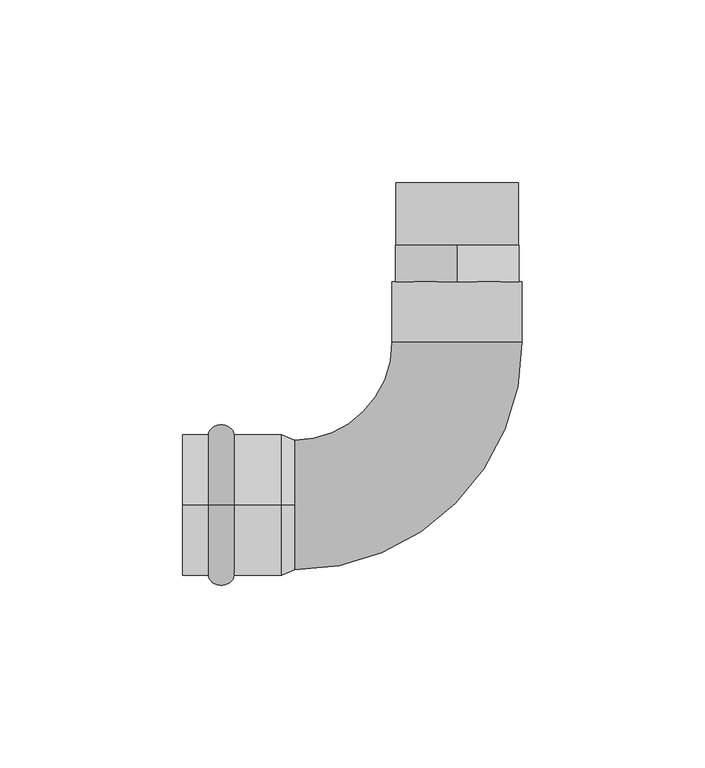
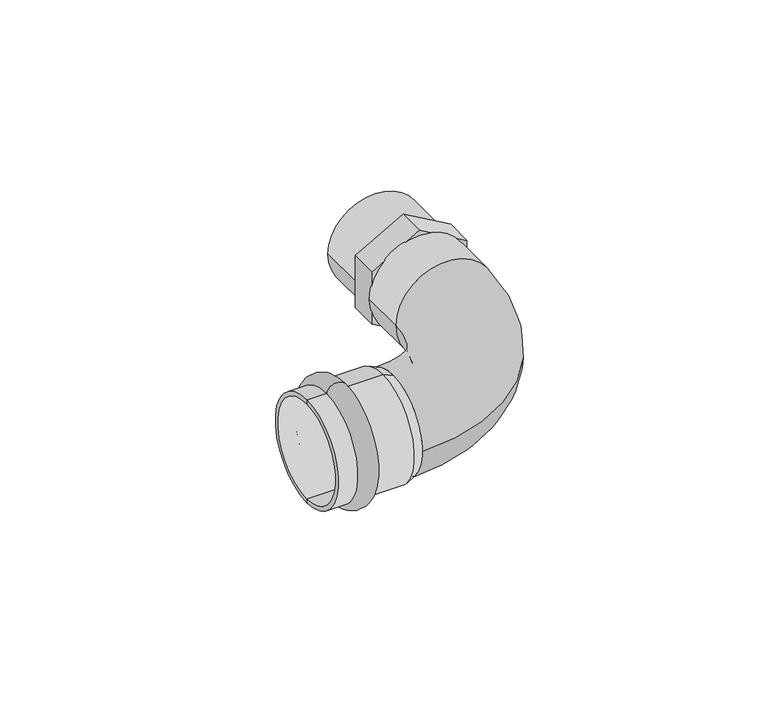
"""IFC4 building model written with IfcOpenShell, lengths in millimetres: pipe fitting geometry."""

from ifc_helpers import new_model, si_unit, point, frame, frame_2d, origin, place, context, project, spatial, polyline, circle_curve, ellipse_curve, trimmed, segment, composite_curve, outline, extrude, source, transform, mapped, element, save
from ifc_brep_helpers import plane_surface, cylinder_surface, revolved_surface, advanced_brep


def pipe_fitting_bc462015(model_context):
    return source(origin(), model_context, "Body", "SolidModel", [
        advanced_brep(
        [(-20.0, 0.0, 19.25), (-20.0, 0.0, -19.25), (-13.0, 0.0, -19.25), (-13.0, 0.0, 19.25)],
        [
            (0, 1, circle_curve(frame((-20.0, 0.0, 0.0), z_axis=(-1.0, 0.0, 0.0), x_axis=(0.0, 0.0, -1.0)), 19.25)),
            (1, 2),
            (2, 3, circle_curve(frame((-13.0, 0.0, 0.0), z_axis=(1.0, 0.0, 0.0), x_axis=(0.0, 0.0, -1.0)), 19.25)),
            (3, 0),
            (1, 0, circle_curve(frame((-20.0, 0.0, 0.0), z_axis=(-1.0, 0.0, 0.0), x_axis=(0.0, 0.0, -1.0)), 19.25)),
            (3, 2, circle_curve(frame((-13.0, 0.0, 0.0), z_axis=(1.0, 0.0, 0.0), x_axis=(0.0, 0.0, -1.0)), 19.25)),
            (2, 1, ellipse_curve(frame((-16.5, 0.0, -19.25), z_axis=(0.0, 1.0, 0.0), x_axis=(-1.0, 0.0, 0.0)), 3.5, 2.75)),
            (0, 3, ellipse_curve(frame((-16.5, 0.0, 19.25), z_axis=(0.0, 1.0, 0.0), x_axis=(-1.0, 0.0, 0.0)), 3.5, 2.75)),
        ],
        [
            revolved_surface(polyline([(-13.0, 0.0, -19.25), (-20.0, 0.0, -19.25)]), (3.0, 0.0, 0.0), (1.0, 0.0, 0.0)),
            revolved_surface(trimmed(ellipse_curve(frame((-16.5, 0.0, -19.25), z_axis=(0.0, -1.0, 0.0), x_axis=(-1.0, 0.0, 0.0)), 3.5, 2.75), [point((-20.0, 0.0, -19.25))], [point((-13.0, 0.0, -19.25))], True, "CARTESIAN"), (3.0, 0.0, 0.0), (1.0, 0.0, 0.0)),
        ],
        [
            (0, [[1, 2, 3, 4]]),
            (0, [[5, -4, 6, -2]]),
            (1, [[-3, 7, -1, 8]]),
            (1, [[-6, -8, -5, -7]]),
        ],
    ),
        advanced_brep(
        [(3.5337785, 0.0, 17.75), (3.5337785, 0.0, -17.75), (0.0, 0.0, -19.25), (0.0, 0.0, 19.25), (-27.0, 0.0, 17.75), (-27.0, 0.0, -17.75), (-27.0, 0.0, 19.25), (-27.0, 0.0, -19.25)],
        [
            (0, 1, circle_curve(frame((3.5337785, 0.0, 0.0), z_axis=(-1.0, 0.0, 0.0), x_axis=(0.0, 0.0, -1.0)), 17.75)),
            (1, 2),
            (2, 3, circle_curve(frame((0.0, 0.0, 0.0), z_axis=(1.0, 0.0, 0.0), x_axis=(0.0, 0.0, -1.0)), 19.25)),
            (3, 0),
            (1, 0, circle_curve(frame((3.5337785, 0.0, 0.0), z_axis=(-1.0, 0.0, 0.0), x_axis=(0.0, 0.0, -1.0)), 17.75)),
            (3, 2, circle_curve(frame((0.0, 0.0, 0.0), z_axis=(1.0, 0.0, 0.0), x_axis=(0.0, 0.0, -1.0)), 19.25)),
            (4, 5, circle_curve(frame((-27.0, 0.0, 0.0), z_axis=(-1.0, 0.0, 0.0), x_axis=(0.0, 0.0, -1.0)), 17.75)),
            (5, 1),
            (0, 4),
            (5, 4, circle_curve(frame((-27.0, 0.0, 0.0), z_axis=(-1.0, 0.0, 0.0), x_axis=(0.0, 0.0, -1.0)), 17.75)),
            (6, 7, circle_curve(frame((-27.0, 0.0, 0.0), z_axis=(-1.0, 0.0, 0.0), x_axis=(0.0, 0.0, -1.0)), 19.25)),
            (7, 5),
            (4, 6),
            (7, 6, circle_curve(frame((-27.0, 0.0, 0.0), z_axis=(-1.0, 0.0, 0.0), x_axis=(0.0, 0.0, -1.0)), 19.25)),
            (2, 7),
            (6, 3),
        ],
        [
            revolved_surface(polyline([(0.0, 0.0, -19.25), (3.5337785, 0.0, -17.75)]), (3.0, 0.0, 0.0), (1.0, 0.0, 0.0)),
            revolved_surface(polyline([(3.5337785, 0.0, -17.75), (-27.0, 0.0, -17.75)]), (3.0, 0.0, 0.0), (1.0, 0.0, 0.0)),
            plane_surface(frame((-27.0, 0.0, 0.0), z_axis=(-1.0, 0.0, 0.0), x_axis=(0.0, 0.0, -1.0))),
            cylinder_surface(frame((3.0, 0.0, 0.0), z_axis=(1.0, 0.0, 0.0), x_axis=(0.0, 0.0, -1.0)), 19.25),
        ],
        [
            (0, [[1, 2, 3, 4]]),
            (0, [[5, -4, 6, -2]]),
            (1, [[7, 8, -1, 9]]),
            (1, [[10, -9, -5, -8]]),
            (2, [[11, 12, -7, 13]]),
            (2, [[14, -13, -10, -12]]),
            (3, [[-3, 15, -11, 16]]),
            (3, [[-6, -16, -14, -15]]),
        ],
    ),
        extrude(outline(polyline([(9.728352, 64.85), (19.4567041, 48.0), (9.728352, 31.15), (-9.728352, 31.15), (-19.4567041, 48.0), (-9.728352, 64.85), (9.728352, 64.85)]), holes=[polyline([(-7.3612159, 35.25), (7.3612159, 35.25), (14.7224319, 48.0), (7.3612159, 60.75), (-7.3612159, 60.75), (-14.7224319, 48.0), (-7.3612159, 35.25)])]), frame((0.0, 61.0, 0.0), z_axis=(0.0, 1.0, 0.0), x_axis=(0.0, 0.0, 1.0)), (0.0, 0.0, 1.0), 10.0),
        extrude(outline(composite_curve([segment(trimmed(circle_curve(frame_2d((0.0, 48.0)), 16.75), [point((0.0, 31.25))], [point((0.0, 64.75))], False, "CARTESIAN"), True, "CONTINUOUS"), segment(trimmed(circle_curve(frame_2d((0.0, 48.0)), 16.75), [point((0.0, 64.75))], [point((0.0, 31.25))], False, "CARTESIAN"), True, "CONTINUOUS")], self_intersect=False)), frame((0.0, 71.0, 0.0), z_axis=(0.0, 1.0, 0.0), x_axis=(0.0, 0.0, 1.0)), (0.0, 0.0, 1.0), 17.0),
        advanced_brep(
        [(0.0, -17.75, 0.0), (0.0, 17.75, 0.0), (3.5337785, -17.75, 0.0), (3.5337785, 17.75, 0.0), (30.25, 44.4662215, 0.0), (65.75, 44.4662215, 0.0), (65.75, 61.0, 0.0), (30.25, 61.0, 0.0)],
        [
            (0, 1, circle_curve(frame((0.0, 0.0, 0.0), z_axis=(-1.0, 0.0, 0.0), x_axis=(0.0, 1.0, 0.0)), 17.75)),
            (1, 0, circle_curve(frame((0.0, 0.0, 0.0), z_axis=(-1.0, 0.0, 0.0), x_axis=(0.0, 1.0, 0.0)), 17.75)),
            (0, 2),
            (2, 3, circle_curve(frame((3.5337785, 0.0, 0.0), z_axis=(-1.0, 0.0, 0.0), x_axis=(0.0, 1.0, 0.0)), 17.75)),
            (3, 1),
            (3, 2, circle_curve(frame((3.5337785, 0.0, 0.0), z_axis=(-1.0, 0.0, 0.0), x_axis=(0.0, 1.0, 0.0)), 17.75)),
            (4, 3, circle_curve(frame((3.5337785, 44.4662215, 0.0), z_axis=(0.0, 0.0, -1.0), x_axis=(0.0, -1.0, 0.0)), 26.7162215)),
            (2, 5, circle_curve(frame((3.5337785, 44.4662215, 0.0), z_axis=(0.0, 0.0, 1.0), x_axis=(0.0, -1.0, 0.0)), 62.2162215)),
            (5, 4, circle_curve(frame((48.0, 44.4662215, 0.0), z_axis=(0.0, -1.0, 0.0), x_axis=(-1.0, 0.0, 0.0)), 17.75)),
            (4, 5, circle_curve(frame((48.0, 44.4662215, 0.0), z_axis=(0.0, -1.0, 0.0), x_axis=(-1.0, 0.0, 0.0)), 17.75)),
            (6, 7, circle_curve(frame((48.0, 61.0, 0.0), z_axis=(0.0, 1.0, 0.0), x_axis=(-1.0, 0.0, 0.0)), 17.75)),
            (7, 6, circle_curve(frame((48.0, 61.0, 0.0), z_axis=(0.0, 1.0, 0.0), x_axis=(-1.0, 0.0, 0.0)), 17.75)),
            (5, 6),
            (7, 4),
        ],
        [
            plane_surface(frame((0.0, 0.0, 0.0), z_axis=(-1.0, 0.0, 0.0), x_axis=(0.0, 0.0, 1.0))),
            cylinder_surface(frame((0.0, 0.0, 0.0), z_axis=(-1.0, 0.0, 0.0), x_axis=(0.0, 1.0, 0.0)), 17.75),
            revolved_surface(trimmed(ellipse_curve(frame((3.5337785, 0.0, 0.0), z_axis=(-1.0, 0.0, 0.0), x_axis=(0.0, 1.0, 0.0)), 17.75, 17.75), [point((3.5337785, -17.75, 0.0))], [point((3.5337785, 17.75, 0.0))], True, "CARTESIAN"), (3.5337785, 44.4662215, 0.0), (0.0, 0.0, 1.0)),
            revolved_surface(trimmed(ellipse_curve(frame((3.5337785, 0.0, 0.0), z_axis=(-1.0, 0.0, 0.0), x_axis=(0.0, 1.0, 0.0)), 17.75, 17.75), [point((3.5337785, 17.75, 0.0))], [point((3.5337785, -17.75, 0.0))], True, "CARTESIAN"), (3.5337785, 44.4662215, 0.0), (0.0, 0.0, 1.0)),
            plane_surface(frame((48.0, 61.0, 0.0), z_axis=(0.0, 1.0, 0.0), x_axis=(0.0, 0.0, 1.0))),
            cylinder_surface(frame((48.0, 44.4662215, 0.0), z_axis=(0.0, -1.0, 0.0), x_axis=(-1.0, 0.0, 0.0)), 17.75),
        ],
        [
            (0, [[1, 2]]),
            (1, [[-1, 3, 4, 5]]),
            (1, [[-2, -5, 6, -3]]),
            (2, [[7, -4, 8, 9]]),
            (3, [[-8, -6, -7, 10]]),
            (4, [[11, 12]]),
            (5, [[-9, 13, -12, 14]]),
            (5, [[-10, -14, -11, -13]]),
        ],
    ),
    ])


if __name__ == "__main__":
    model = new_model("IFC4")
    model_context = context("Model", 3, world=origin())
    ifc_project = project(units=[si_unit("LENGTHUNIT", "METRE", prefix="MILLI")], contexts=[model_context])
    site = spatial("IfcSite", under=ifc_project)
    building = spatial("IfcBuilding", under=site)
    placement = place(None, origin())
    pipe_fitting_shape = pipe_fitting_bc462015(model_context)
    element("IfcPipeFitting", 1, ObjectType="РЕХАУ_Пресс Отвод НР : 35 x R 1\"", at=placement, inside=building, context=model_context, shape_type="MappedRepresentation", body=[
        mapped(pipe_fitting_shape, transform((0.0, 0.0, 0.0), x_axis=(1.0, 0.0, 0.0), y_axis=(0.0, 1.0, 0.0), z_axis=(0.0, 0.0, 1.0))),
    ])
    save(model, "model.ifc")
